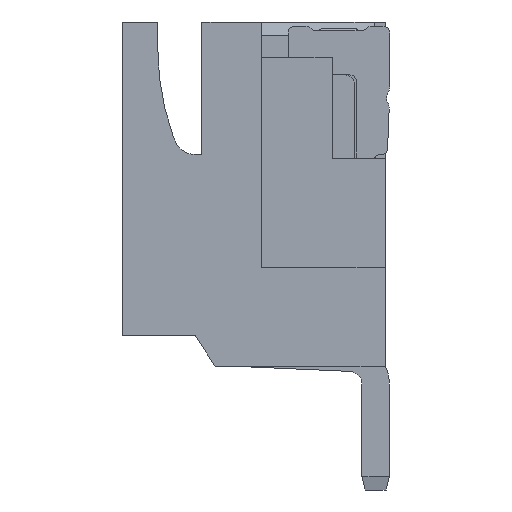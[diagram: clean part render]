
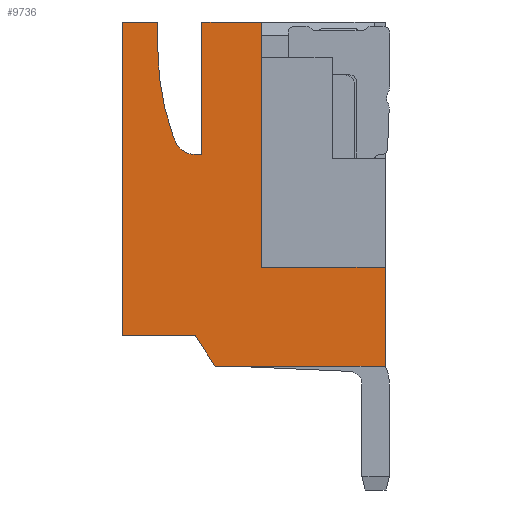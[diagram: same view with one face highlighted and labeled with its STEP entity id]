
A CAD part, left-side view. The second image highlights one B-rep face of the part: STEP entity #9736.
In plain terms, the highlighted planar face has unit normal (-1, 0, 0).
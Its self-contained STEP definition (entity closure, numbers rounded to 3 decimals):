
#132=CIRCLE('',#10375,0.5);
#133=CIRCLE('',#10376,5.822);
#904=FACE_OUTER_BOUND('',#1423,.T.);
#1423=EDGE_LOOP('',(#8235,#8236,#8237,#8238,#8239,#8240,#8241,#8242,#8243,
#8244,#8245,#8246,#8247,#8248,#8249));
#2406=LINE('',#15044,#3605);
#2448=LINE('',#15121,#3647);
#2475=LINE('',#15183,#3674);
#2484=LINE('',#15201,#3683);
#2497=LINE('',#15234,#3696);
#2498=LINE('',#15237,#3697);
#2499=LINE('',#15239,#3698);
#2500=LINE('',#15241,#3699);
#2501=LINE('',#15245,#3700);
#2502=LINE('',#15247,#3701);
#2503=LINE('',#15249,#3702);
#2504=LINE('',#15251,#3703);
#2505=LINE('',#15252,#3704);
#3605=VECTOR('',#12337,1.65);
#3647=VECTOR('',#12397,1.35);
#3674=VECTOR('',#12440,0.6);
#3683=VECTOR('',#12453,7.1);
#3696=VECTOR('',#12478,0.832);
#3697=VECTOR('',#12481,5.55);
#3698=VECTOR('',#12482,3.);
#3699=VECTOR('',#12483,0.15);
#3700=VECTOR('',#12486,0.085);
#3701=VECTOR('',#12489,0.8);
#3702=VECTOR('',#12490,3.85);
#3703=VECTOR('',#12491,2.25);
#3704=VECTOR('',#12492,2.8);
#4567=VERTEX_POINT('',#15036);
#4570=VERTEX_POINT('',#15042);
#4595=VERTEX_POINT('',#15118);
#4596=VERTEX_POINT('',#15120);
#4622=VERTEX_POINT('',#15180);
#4623=VERTEX_POINT('',#15182);
#4630=VERTEX_POINT('',#15200);
#4644=VERTEX_POINT('',#15232);
#4645=VERTEX_POINT('',#15236);
#4646=VERTEX_POINT('',#15238);
#4647=VERTEX_POINT('',#15240);
#4648=VERTEX_POINT('',#15242);
#4649=VERTEX_POINT('',#15244);
#4650=VERTEX_POINT('',#15248);
#4651=VERTEX_POINT('',#15250);
#5784=EDGE_CURVE('',#4567,#4570,#2406,.T.);
#5826=EDGE_CURVE('',#4596,#4595,#2448,.T.);
#5857=EDGE_CURVE('',#4623,#4622,#2475,.T.);
#5866=EDGE_CURVE('',#4630,#4567,#2484,.T.);
#5883=EDGE_CURVE('',#4644,#4570,#2497,.T.);
#5884=EDGE_CURVE('',#4645,#4596,#2498,.T.);
#5885=EDGE_CURVE('',#4595,#4646,#2499,.T.);
#5886=EDGE_CURVE('',#4646,#4647,#2500,.T.);
#5887=EDGE_CURVE('',#4648,#4647,#132,.T.);
#5888=EDGE_CURVE('',#4649,#4648,#2501,.T.);
#5889=EDGE_CURVE('',#4623,#4649,#133,.T.);
#5890=EDGE_CURVE('',#4622,#4630,#2502,.T.);
#5891=EDGE_CURVE('',#4644,#4650,#2503,.T.);
#5892=EDGE_CURVE('',#4650,#4651,#2504,.T.);
#5893=EDGE_CURVE('',#4651,#4645,#2505,.T.);
#8235=ORIENTED_EDGE('',*,*,#5884,.T.);
#8236=ORIENTED_EDGE('',*,*,#5826,.T.);
#8237=ORIENTED_EDGE('',*,*,#5885,.T.);
#8238=ORIENTED_EDGE('',*,*,#5886,.T.);
#8239=ORIENTED_EDGE('',*,*,#5887,.F.);
#8240=ORIENTED_EDGE('',*,*,#5888,.F.);
#8241=ORIENTED_EDGE('',*,*,#5889,.F.);
#8242=ORIENTED_EDGE('',*,*,#5857,.T.);
#8243=ORIENTED_EDGE('',*,*,#5890,.T.);
#8244=ORIENTED_EDGE('',*,*,#5866,.T.);
#8245=ORIENTED_EDGE('',*,*,#5784,.T.);
#8246=ORIENTED_EDGE('',*,*,#5883,.F.);
#8247=ORIENTED_EDGE('',*,*,#5891,.T.);
#8248=ORIENTED_EDGE('',*,*,#5892,.T.);
#8249=ORIENTED_EDGE('',*,*,#5893,.T.);
#9263=PLANE('',#10374);
#9736=ADVANCED_FACE('',(#904),#9263,.F.);
#10374=AXIS2_PLACEMENT_3D('',#15235,#12479,#12480);
#10375=AXIS2_PLACEMENT_3D('',#15243,#12484,#12485);
#10376=AXIS2_PLACEMENT_3D('',#15246,#12487,#12488);
#12337=DIRECTION('',(0.,-1.,0.));
#12397=DIRECTION('',(0.,1.,0.));
#12440=DIRECTION('',(0.,0.,1.));
#12453=DIRECTION('',(0.,0.,-1.));
#12478=DIRECTION('',(0.,0.541,0.841));
#12479=DIRECTION('center_axis',(1.,0.,0.));
#12480=DIRECTION('ref_axis',(0.,-1.,0.));
#12481=DIRECTION('',(0.,0.,1.));
#12482=DIRECTION('',(0.,0.,-1.));
#12483=DIRECTION('',(0.,1.,0.));
#12484=DIRECTION('center_axis',(-1.,0.,0.));
#12485=DIRECTION('ref_axis',(0.,0.94,-0.342));
#12486=DIRECTION('',(0.,-0.342,-0.94));
#12487=DIRECTION('center_axis',(-1.,0.,0.));
#12488=DIRECTION('ref_axis',(0.,1.,0.));
#12489=DIRECTION('',(0.,1.,0.));
#12490=DIRECTION('',(0.,-1.,0.));
#12491=DIRECTION('',(0.,0.,1.));
#12492=DIRECTION('',(0.,1.,0.));
#15036=CARTESIAN_POINT('',(3.75,0.,-7.1));
#15042=CARTESIAN_POINT('',(3.75,-1.65,-7.1));
#15044=CARTESIAN_POINT('',(3.75,0.,-7.1));
#15118=CARTESIAN_POINT('',(3.75,-1.8,0.));
#15120=CARTESIAN_POINT('',(3.75,-3.15,0.));
#15121=CARTESIAN_POINT('',(3.75,-3.15,0.));
#15180=CARTESIAN_POINT('',(3.75,-0.8,0.));
#15182=CARTESIAN_POINT('',(3.75,-0.8,-0.6));
#15183=CARTESIAN_POINT('',(3.75,-0.8,-0.6));
#15200=CARTESIAN_POINT('',(3.75,0.,0.));
#15201=CARTESIAN_POINT('',(3.75,0.,0.));
#15232=CARTESIAN_POINT('',(3.75,-2.1,-7.8));
#15234=CARTESIAN_POINT('',(3.75,-2.1,-7.8));
#15235=CARTESIAN_POINT('Origin',(3.75,-2.975,-3.9));
#15236=CARTESIAN_POINT('',(3.75,-3.15,-5.55));
#15237=CARTESIAN_POINT('',(3.75,-3.15,-5.55));
#15238=CARTESIAN_POINT('',(3.75,-1.8,-3.));
#15239=CARTESIAN_POINT('',(3.75,-1.8,0.));
#15240=CARTESIAN_POINT('',(3.75,-1.65,-3.));
#15241=CARTESIAN_POINT('',(3.75,-1.8,-3.));
#15242=CARTESIAN_POINT('',(3.75,-1.18,-2.671));
#15243=CARTESIAN_POINT('Origin',(3.75,-1.65,-2.5));
#15244=CARTESIAN_POINT('',(3.75,-1.151,-2.591));
#15245=CARTESIAN_POINT('',(3.75,-1.151,-2.591));
#15246=CARTESIAN_POINT('Origin',(3.75,-6.622,-0.6));
#15247=CARTESIAN_POINT('',(3.75,-0.8,0.));
#15248=CARTESIAN_POINT('',(3.75,-5.95,-7.8));
#15249=CARTESIAN_POINT('',(3.75,-2.1,-7.8));
#15250=CARTESIAN_POINT('',(3.75,-5.95,-5.55));
#15251=CARTESIAN_POINT('',(3.75,-5.95,-7.8));
#15252=CARTESIAN_POINT('',(3.75,-5.95,-5.55));
